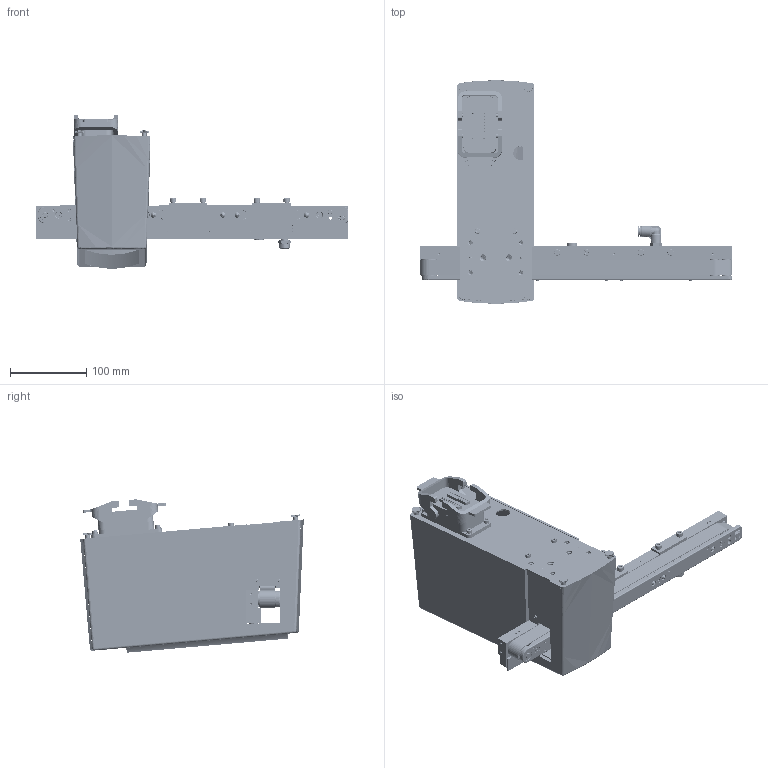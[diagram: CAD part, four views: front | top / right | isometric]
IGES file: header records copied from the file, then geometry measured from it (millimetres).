
Global section: file name: 10-4.igs; native system: SolidDesigner 3D IGES; preprocessor: 09.01E  09-Nov-2001; date: 20030130.105248; units: millimetre
Bounding box: 410.34 x 293.28 x 201.3 mm (x, y, z)
Surface area: 688974 mm2 (no closed solid volume)
Topology: 0 solids, 0 shells, 6486 faces, 58685 edges, 58685 vertices
Faces by surface type: bspline 4523, revolution 1963
